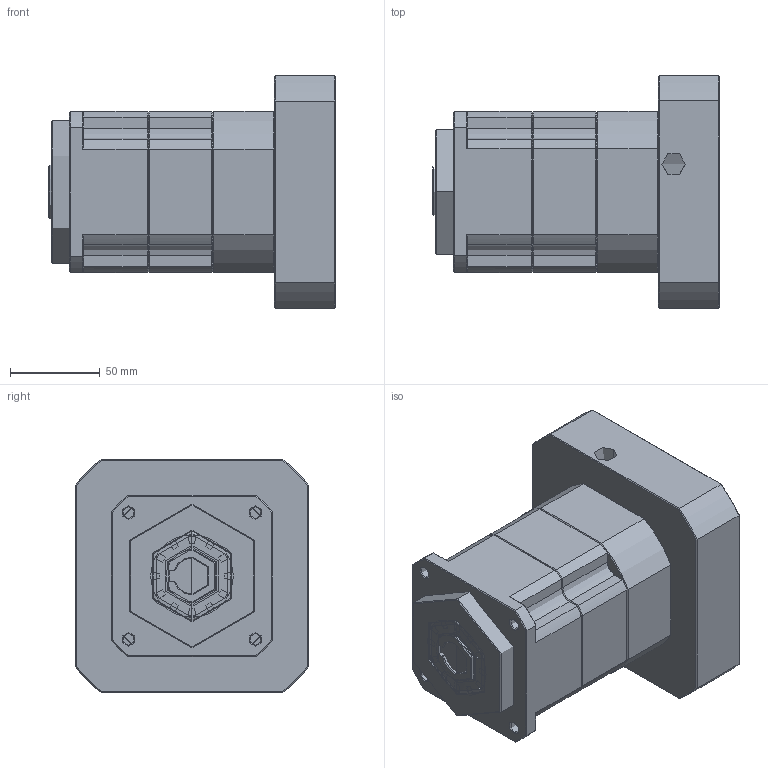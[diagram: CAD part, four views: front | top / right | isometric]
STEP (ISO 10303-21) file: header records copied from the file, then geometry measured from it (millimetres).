
FILE_DESCRIPTION (( 'STEP AP214' ), '1' );
FILE_NAME ('ZPB090-K20-L2-P1-22-110-130-M8.step', '2024-06-07T18:26:32', ( 'Windows 蚚誧' ), ( 'Organization' ), 'SwSTEP 2.0', 'SolidWorks 2016', '' );
FILE_SCHEMA (( 'AUTOMOTIVE_DESIGN' ));
Length unit declared in the file: millimetre
Products named in the file (1): ZPB090-K20-L2-P1-22-110-130-M8
Bounding box: 160 x 130 x 130 mm (x, y, z)
Topology: 0 solids, 36 shells, 1861 faces, 4902 edges, 3109 vertices
Faces by surface type: plane 962, bspline 383, cone 285, cylinder 231
Entity records: 88123 total; most frequent: CARTESIAN_POINT 40470, ORIENTED_EDGE 9784, DIRECTION 7588, EDGE_CURVE 4903, VECTOR 3248, LINE 3248, VERTEX_POINT 3109, AXIS2_PLACEMENT_3D 2170
